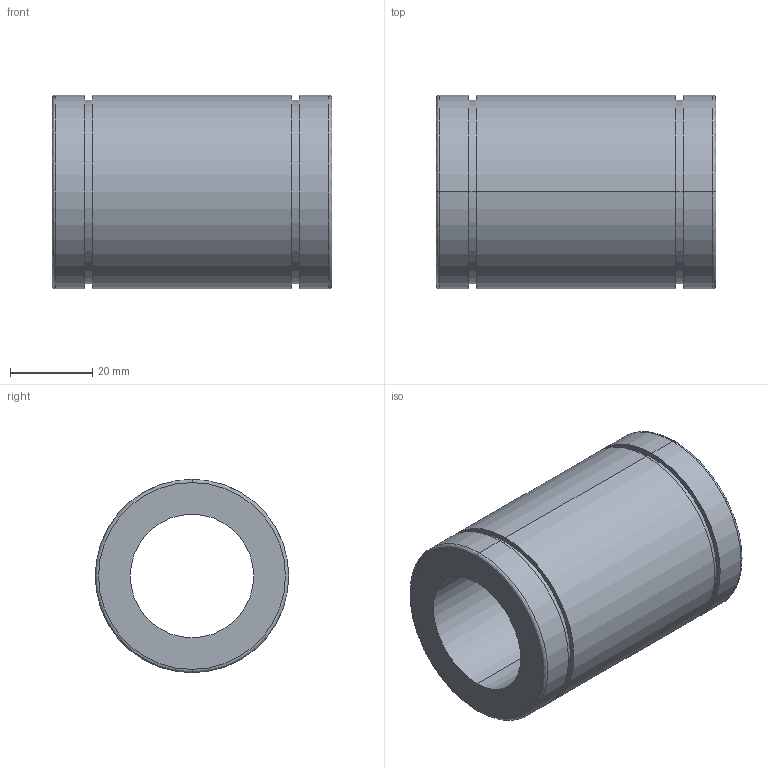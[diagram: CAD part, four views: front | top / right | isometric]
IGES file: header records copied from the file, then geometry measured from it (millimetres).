
Start section: 3D InterOp IGES (Version 21 0 1), Spatial Corp. Copyright (c) 1999-2007.
Global section: file name: L-30V.igs; native system: Spatial Corp.; preprocessor: 3D InterOp GENERIC/IGES 3.0; author: Noname; organization: Noname; date: 20220516.093811; units: millimetre
Bounding box: 68 x 47 x 47 mm (x, y, z)
Surface area: 19093.2 mm2 (no closed solid volume)
Topology: 0 solids, 0 shells, 22 faces, 88 edges, 88 vertices
Faces by surface type: revolution 16, extrusion 6
